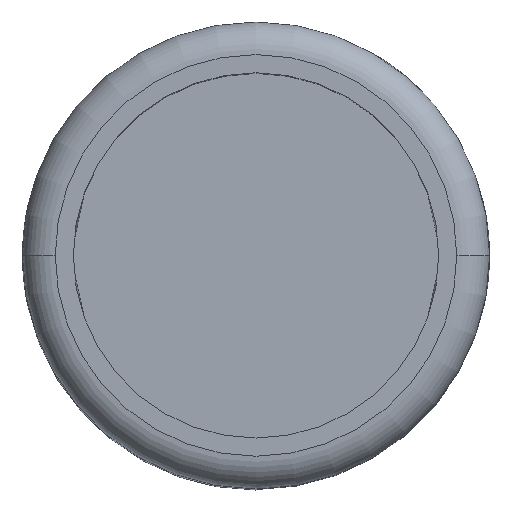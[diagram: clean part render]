
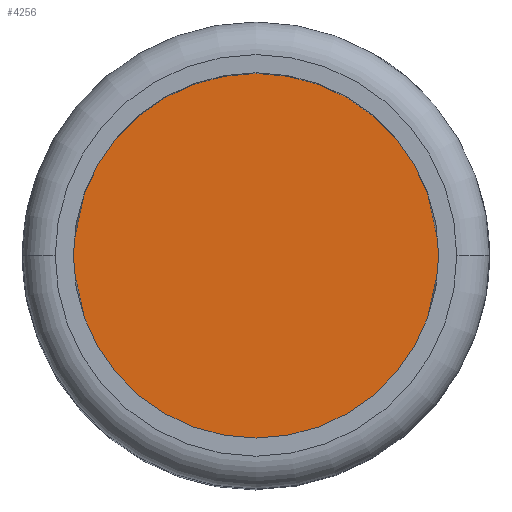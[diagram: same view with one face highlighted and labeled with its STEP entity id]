
A CAD part, top view. The second image highlights one B-rep face of the part: STEP entity #4256.
In plain terms, the highlighted planar face has unit normal (0, 0, 1).
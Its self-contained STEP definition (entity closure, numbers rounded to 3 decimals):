
#86 = DIRECTION ( 'NONE',  ( 0., 0., -1. ) ) ;
#106 = CARTESIAN_POINT ( 'NONE',  ( -25.15, 0., 7. ) ) ;
#408 = ORIENTED_EDGE ( 'NONE', *, *, #2771, .F. ) ;
#472 = DIRECTION ( 'NONE',  ( 0., 0., -1. ) ) ;
#488 = CARTESIAN_POINT ( 'NONE',  ( 0., 0., 7. ) ) ;
#809 = AXIS2_PLACEMENT_3D ( 'NONE', #3947, #472, #2859 ) ;
#979 = VERTEX_POINT ( 'NONE', #106 ) ;
#1377 = ORIENTED_EDGE ( 'NONE', *, *, #4798, .F. ) ;
#1527 = AXIS2_PLACEMENT_3D ( 'NONE', #488, #86, #4257 ) ;
#1627 = EDGE_LOOP ( 'NONE', ( #1377, #408 ) ) ;
#1852 = AXIS2_PLACEMENT_3D ( 'NONE', #2613, #2666, #4568 ) ;
#1857 = CIRCLE ( 'NONE', #809, 25.15 ) ;
#2414 = CIRCLE ( 'NONE', #1527, 25.15 ) ;
#2613 = CARTESIAN_POINT ( 'NONE',  ( -25.15, 0., 7. ) ) ;
#2666 = DIRECTION ( 'NONE',  ( 0., 0., 1. ) ) ;
#2692 = PLANE ( 'NONE',  #1852 ) ;
#2771 = EDGE_CURVE ( 'NONE', #3368, #979, #2414, .T. ) ;
#2859 = DIRECTION ( 'NONE',  ( -1., 0., 0. ) ) ;
#3032 = FACE_OUTER_BOUND ( 'NONE', #1627, .T. ) ;
#3368 = VERTEX_POINT ( 'NONE', #4836 ) ;
#3947 = CARTESIAN_POINT ( 'NONE',  ( 0., 0., 7. ) ) ;
#4256 = ADVANCED_FACE ( 'NONE', ( #3032 ), #2692, .T. ) ;
#4257 = DIRECTION ( 'NONE',  ( -1., 0., 0. ) ) ;
#4568 = DIRECTION ( 'NONE',  ( 1., 0., 0. ) ) ;
#4798 = EDGE_CURVE ( 'NONE', #979, #3368, #1857, .T. ) ;
#4836 = CARTESIAN_POINT ( 'NONE',  ( 25.15, 0., 7. ) ) ;
